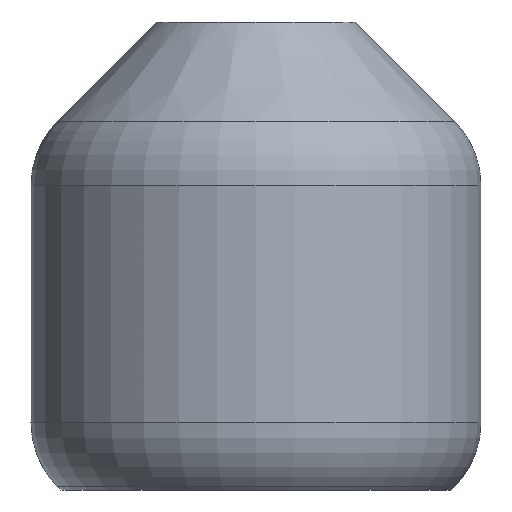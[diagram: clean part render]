
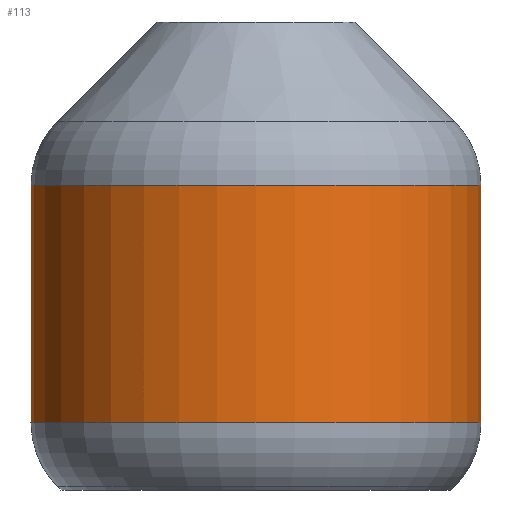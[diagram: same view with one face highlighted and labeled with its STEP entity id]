
A CAD part, front view. The second image highlights one B-rep face of the part: STEP entity #113.
In plain terms, the highlighted cylindrical face has radius 7.5 mm (diameter 15 mm), a full revolution.
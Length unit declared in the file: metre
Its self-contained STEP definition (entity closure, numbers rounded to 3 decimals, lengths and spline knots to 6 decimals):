
#21=ORIENTED_EDGE('',*,*,#41,.T.);
#22=ORIENTED_EDGE('',*,*,#42,.T.);
#41=EDGE_CURVE('',#51,#51,#61,.F.);
#42=EDGE_CURVE('',#52,#52,#62,.F.);
#51=VERTEX_POINT('',#205);
#52=VERTEX_POINT('',#207);
#61=CIRCLE('',#139,0.0075);
#62=CIRCLE('',#140,0.0075);
#71=EDGE_LOOP('',(#21));
#72=EDGE_LOOP('',(#22));
#91=FACE_BOUND('',#71,.T.);
#92=FACE_BOUND('',#72,.T.);
#110=CYLINDRICAL_SURFACE('',#138,0.0075);
#113=ADVANCED_FACE('',(#91,#92),#110,.T.);
#138=AXIS2_PLACEMENT_3D('',#203,#163,#164);
#139=AXIS2_PLACEMENT_3D('',#204,#165,#166);
#140=AXIS2_PLACEMENT_3D('',#206,#167,#168);
#163=DIRECTION('',(0.,0.,1.));
#164=DIRECTION('',(-1.,0.,0.));
#165=DIRECTION('',(0.,0.,1.));
#166=DIRECTION('',(-1.,0.,0.));
#167=DIRECTION('',(0.,0.,-1.));
#168=DIRECTION('',(1.,0.,0.));
#203=CARTESIAN_POINT('',(-0.025907,0.001416,0.0182));
#204=CARTESIAN_POINT('',(-0.025907,0.001416,0.020357));
#205=CARTESIAN_POINT('',(-0.033407,0.001416,0.020357));
#206=CARTESIAN_POINT('',(-0.025907,0.001416,0.012443));
#207=CARTESIAN_POINT('',(-0.018407,0.001416,0.012443));
